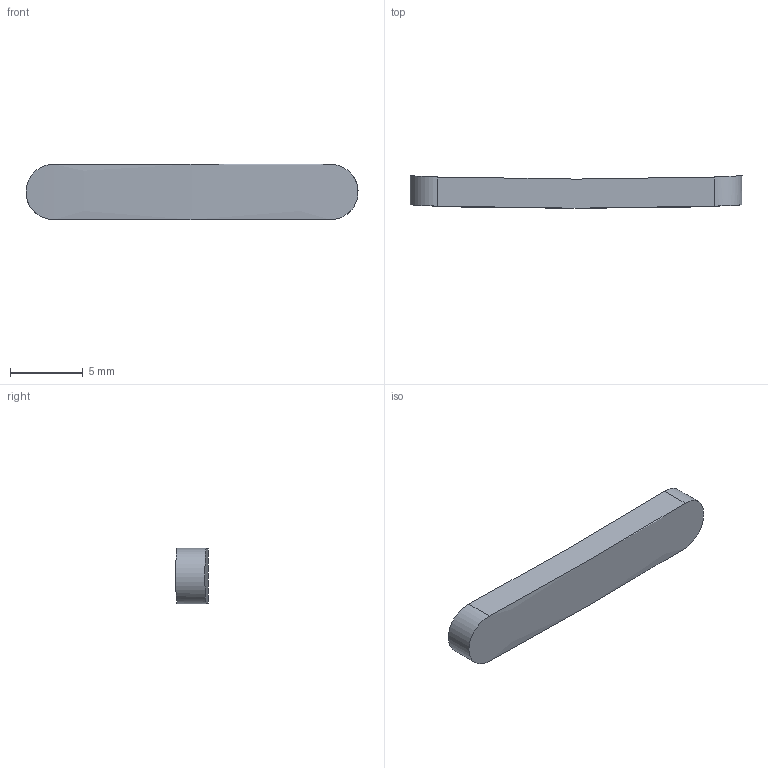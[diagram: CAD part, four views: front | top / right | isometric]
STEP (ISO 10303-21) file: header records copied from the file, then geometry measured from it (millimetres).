
FILE_DESCRIPTION(('Open CASCADE Model'),'2;1');
FILE_NAME('Open CASCADE Shape Model','2026-11-01T16:31:50',('Author'),( 'Open CASCADE'),'Open CASCADE STEP processor 8.0','build123d', 'Unknown');
FILE_SCHEMA(('AUTOMOTIVE_DESIGN { 1 0 10303 214 1 1 1 1 }'));
Length unit declared in the file: millimetre
Products named in the file (1): COMPOUND
Bounding box: 22.8 x 2.24 x 3.8 mm (x, y, z)
Volume: 135.2 mm3; surface area: 293 mm2
Topology: 1 solids, 1 shells, 11 faces, 24 edges, 16 vertices
Faces by surface type: cylinder 4, plane 4, offset 2, extrusion 1
Entity records: 2281 total; most frequent: CARTESIAN_POINT 1855, B_SPLINE_CURVE_WITH_KNOTS 51, ORIENTED_EDGE 48, PCURVE 48, DEFINITIONAL_REPRESENTATION 48, DIRECTION 45, VECTOR 27, EDGE_CURVE 24
